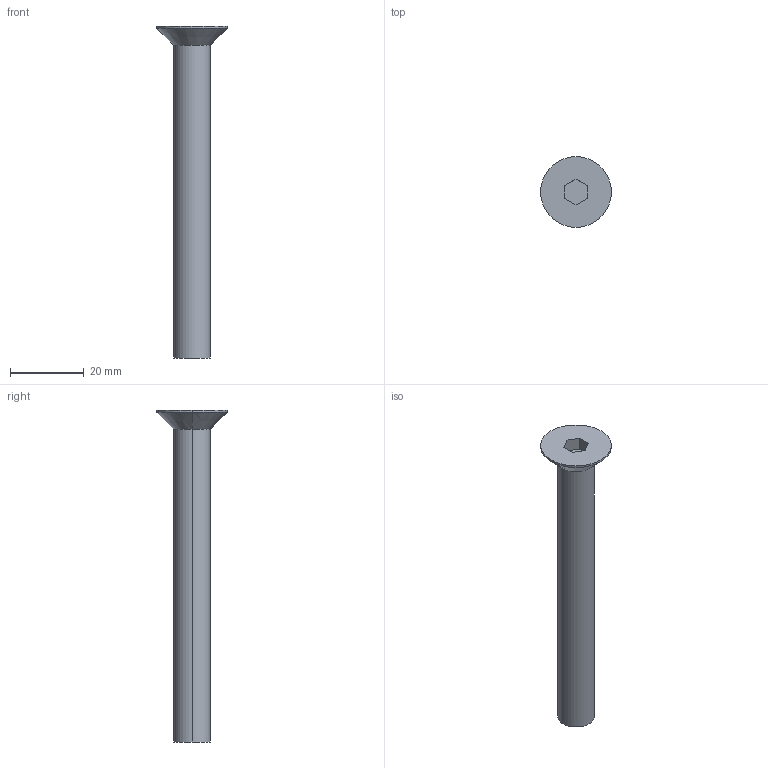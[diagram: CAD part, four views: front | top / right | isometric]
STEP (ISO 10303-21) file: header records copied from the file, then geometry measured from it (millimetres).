
FILE_DESCRIPTION (( 'STEP AP214' ), '1' );
FILE_NAME ('COUNTERSHUNK_HEAD_BOLT_M10(L=085).STEP', '2021-09-18T10:24:13', ( '' ), ( '' ), 'SwSTEP 2.0', 'SolidWorks 2018', '' );
FILE_SCHEMA (( 'AUTOMOTIVE_DESIGN' ));
Length unit declared in the file: millimetre
Products named in the file (1): COUNTERSHUNK_HEAD_BOLT_M10(L=085)
Bounding box: 19.22 x 19.22 x 90.22 mm (x, y, z)
Volume: 7539.1 mm3; surface area: 3449.9 mm2
Topology: 1 solids, 1 shells, 15 faces, 32 edges, 20 vertices
Faces by surface type: plane 9, cylinder 4, cone 2
Entity records: 436 total; most frequent: DIRECTION 72, CARTESIAN_POINT 68, ORIENTED_EDGE 64, EDGE_CURVE 32, LINE 24, AXIS2_PLACEMENT_3D 24, VECTOR 24, VERTEX_POINT 20
